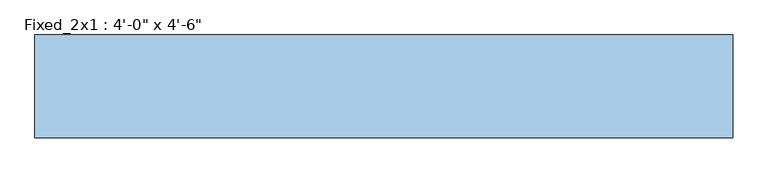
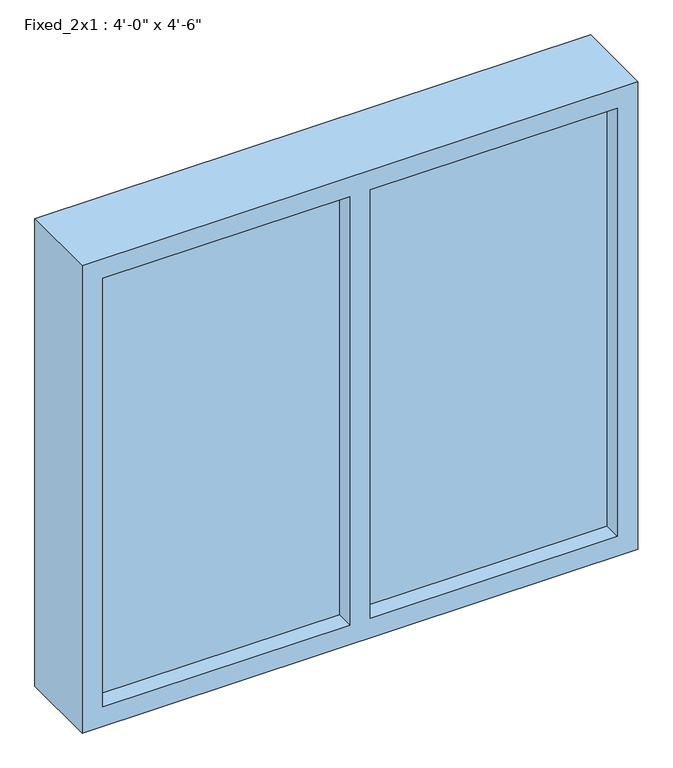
"""IFC4 building model written with IfcOpenShell, lengths in millimetres: window geometry."""

from ifc_helpers import new_model, si_unit, frame, origin, place, context, project, spatial, polyline, outline, extrude, source, transform, mapped, element, save


def window_10758067(model_context):
    return source(origin(), model_context, "Body", "SweptSolid", [
        extrude(outline(polyline([(-660.4, -82.9137746), (-660.4, -57.5137746), (-50.8, -57.5137746), (-50.8, -82.9137746), (-660.4, -82.9137746)])), frame((0.0, 0.0, 1117.6), z_axis=(0.0, 0.0, 1.0), x_axis=(1.0, 0.0, 0.0)), (0.0, 0.0, 1.0), 1117.6),
        extrude(outline(polyline([(-1320.8, -82.9137746), (-1320.8, -57.5137746), (-711.2, -57.5137746), (-711.2, -82.9137746), (-1320.8, -82.9137746)])), frame((0.0, 0.0, 1117.6), z_axis=(0.0, 0.0, 1.0), x_axis=(1.0, 0.0, 0.0)), (0.0, 0.0, 1.0), 1117.6),
        extrude(outline(polyline([(2286.0, -1371.6), (1066.8, -1371.6), (1066.8, 0.0), (2286.0, 0.0), (2286.0, -1371.6)]), holes=[polyline([(2235.2, -660.4), (2235.2, -50.8), (1117.6, -50.8), (1117.6, -660.4), (2235.2, -660.4)]), polyline([(2235.2, -1320.8), (2235.2, -711.2), (1117.6, -711.2), (1117.6, -1320.8), (2235.2, -1320.8)])]), frame((0.0, -127.3637746, 0.0), z_axis=(0.0, 1.0, 0.0), x_axis=(0.0, 0.0, 1.0)), (0.0, 0.0, 1.0), 201.6125),
    ])


if __name__ == "__main__":
    model = new_model("IFC4")
    model_context = context("Model", 3, world=origin())
    ifc_project = project(units=[si_unit("LENGTHUNIT", "METRE", prefix="MILLI")], contexts=[model_context])
    site = spatial("IfcSite", under=ifc_project)
    building = spatial("IfcBuilding", under=site)
    placement = place(None, origin())
    window_shape = window_10758067(model_context)
    element("IfcWindow", 1, ObjectType="Fixed_2x1 : 4'-0\" x 4'-6\"", at=placement, inside=building, context=model_context, shape_type="MappedRepresentation", body=[
        mapped(window_shape, transform((0.0, 0.0, 0.0), x_axis=(1.0, 0.0, 0.0), y_axis=(0.0, 1.0, 0.0), z_axis=(0.0, 0.0, 1.0))),
    ])
    save(model, "model.ifc")
